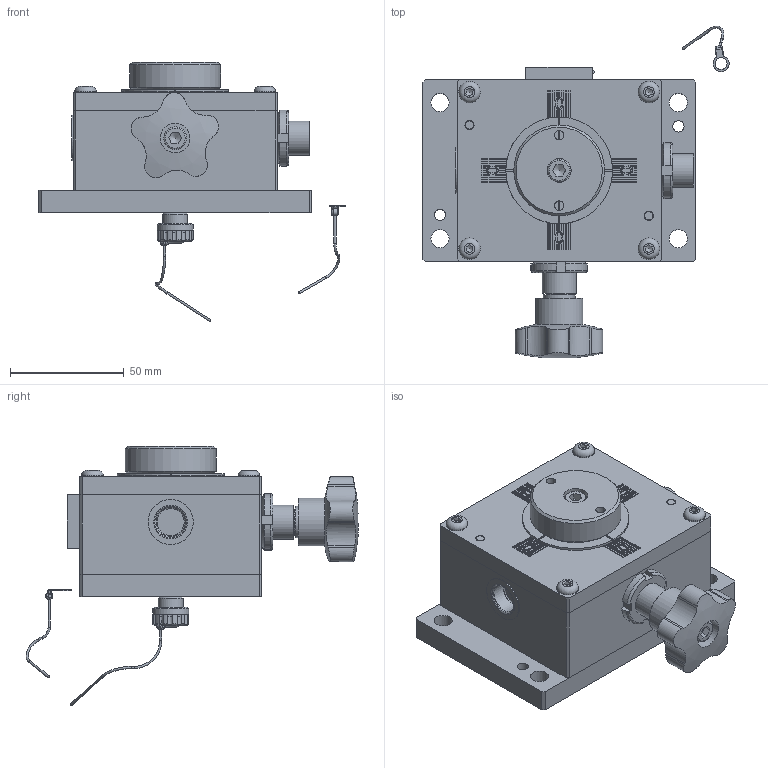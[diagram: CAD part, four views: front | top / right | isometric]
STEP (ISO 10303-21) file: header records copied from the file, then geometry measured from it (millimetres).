
FILE_DESCRIPTION(/* description */ (''),/* implementation_level */ '2;1');
FILE_NAME(/* name */ 'C:\Local Work Area\Progetti\AP\CALIBRI\146.00 Posizionatore\146.00\146.00-X.stp',/* time_stamp */ '2020-02-20T14:54:36+01:00',/* author */ ('CAD5'),/* organization */ (''),/* preprocessor_version */ 'ST-DEVELOPER v17.2',/* originating_system */ 'Autodesk Inventor 2019',/* authorisation */ '');
FILE_SCHEMA (('AUTOMOTIVE_DESIGN { 1 0 10303 214 3 1 1 }'));
Length unit declared in the file: millimetre
Products named in the file (35): 146.00-X; 146.03; 146.01; 146.07; 146.02; 146.00_002 Ass manopola-01; UNI 5931 - M 6 x  30; Manopola mecanoplastica 12010250; B12.5 UNI8773; 146.00_002 Ass manopola-02; 146.09; 146.10; UNI 5933 - M4 x 20; UNI 5923 - M6 x 1 x 8; GHIERA M15x1 KM2; UNI 5931 - M5 x 0,8 x 16; ISO 2338 - 5 m6 x 20 - A; Copia di ISO 7380 - M5 x 16; ISO 2338 - 5 m6 x 12 - A; 146.06; UNI 5927 - M5 x 6; 146.00_001 Attrezzatura; 146.04; 146.05; UNI 5931 - M 6 x  20; 146.00 Ass spina; ISO 8735 - 8 x 35 - A; VOLANTINO ZIGRINATO - 130 10 100; catenella; catenella-1; catenella-2; UNI ISO 7380 - M5 x 20; TAPPO_001; ISO 8734 - Ø4 x 16 - A (AP); 146.11
Assembly tree (48 placements, depth 4):
  146.00-X
    146.03
    146.01
    146.07
    146.02
    146.00_002 Ass manopola-01
      146.09
      UNI 5931 - M 6 x  30
      Manopola mecanoplastica 12010250
      146.10
      UNI 5933 - M4 x 20
      UNI 5923 - M6 x 1 x 8
      B12.5 UNI8773  x2
    146.00_002 Ass manopola-02
      146.09
      146.10
      UNI 5933 - M4 x 20
      UNI 5923 - M6 x 1 x 8
    GHIERA M15x1 KM2  x2
    UNI 5931 - M5 x 0,8 x 16  x4
    ISO 2338 - 5 m6 x 20 - A  x2
    Copia di ISO 7380 - M5 x 16  x4
    ISO 2338 - 5 m6 x 12 - A
    146.06
    UNI 5927 - M5 x 6
    146.00_001 Attrezzatura
      146.04
      146.05
      UNI 5931 - M 6 x  20
    146.00 Ass spina
      ISO 8735 - 8 x 35 - A
      VOLANTINO ZIGRINATO - 130 10 100
      catenella
        catenella-1
        catenella-2
      UNI ISO 7380 - M5 x 20
    TAPPO_001
    ISO 8734 - Ø4 x 16 - A (AP)  x2
    146.11
Bounding box: 134.82 x 146.22 x 114.1 mm (x, y, z)
Volume: 394398.5 mm3; surface area: 134457.6 mm2
Topology: 45 solids, 45 shells, 1071 faces, 2769 edges, 1885 vertices
Faces by surface type: plane 667, cylinder 204, cone 94, bspline 54, torus 51, sphere 1
Full cylindrical faces by diameter (mm): 1 x6, 3.242 x2, 4 x8, 4.1 x2, 4.134 x12, 4.135 x1, 4.917 x4, 5 x24, 5.2 x2, 5.3 x1, 5.333 x1, 6 x5, 6.1 x1, 6.4 x2, 6.5 x4, 7.64 x2, 8 x15, 8.5 x4, 9 x4, 9.5 x5, 10 x2, 10.5 x1, 11 x1, 11.5 x4, 12 x5, 12.9 x1, 13 x1, 13.867 x1, 13.9 x1, 13.917 x3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
Entity records: 30335 total; most frequent: CARTESIAN_POINT 6620, ORIENTED_EDGE 4594, DIRECTION 4510, EDGE_CURVE 2297, VERTEX_POINT 1578, AXIS2_PLACEMENT_3D 1543, LINE 1424, VECTOR 1424
